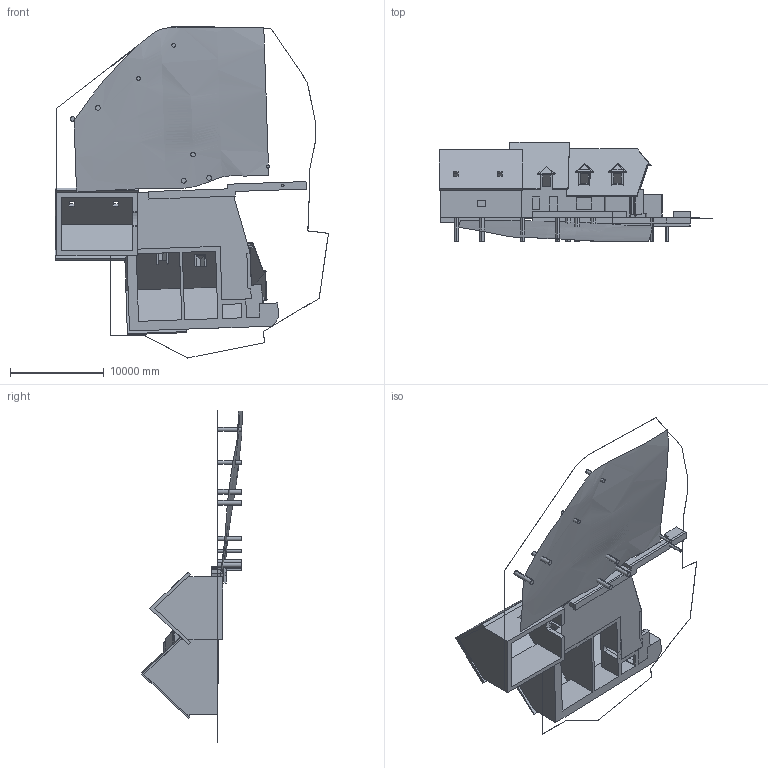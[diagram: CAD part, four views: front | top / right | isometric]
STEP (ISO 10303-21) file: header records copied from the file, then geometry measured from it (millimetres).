
FILE_DESCRIPTION (( 'STEP AP214' ), '1' );
FILE_NAME ('PROPRIETE.STEP', '2026-03-29T13:10:53', ( '' ), ( '' ), 'SwSTEP 2.0', 'SolidWorks 2022', '' );
FILE_SCHEMA (( 'AUTOMOTIVE_DESIGN' ));
Length unit declared in the file: millimetre
Products named in the file (8): VEGETATION; MAISON; GRANGE; RELEVE-ALTIMETRIQUE; MURS; PROPRIETE; TERRASSE; SKEL-TERRAIN
Assembly tree (7 placements, depth 2):
  PROPRIETE
    SKEL-TERRAIN
    GRANGE
    TERRASSE
    MAISON
    MURS
    RELEVE-ALTIMETRIQUE
    VEGETATION
Bounding box: 29128.57 x 10710.75 x 35407.98 mm (x, y, z)
Volume: 272374777270.1 mm3; surface area: 2085984568.3 mm2
Topology: 34 solids, 35 shells, 432 faces, 1069 edges, 702 vertices
Faces by surface type: plane 409, cylinder 22, bspline 1
Entity records: 15241 total; most frequent: CARTESIAN_POINT 4292, ORIENTED_EDGE 2134, DIRECTION 1993, EDGE_CURVE 1069, VECTOR 1021, LINE 1021, VERTEX_POINT 702, AXIS2_PLACEMENT_3D 486
